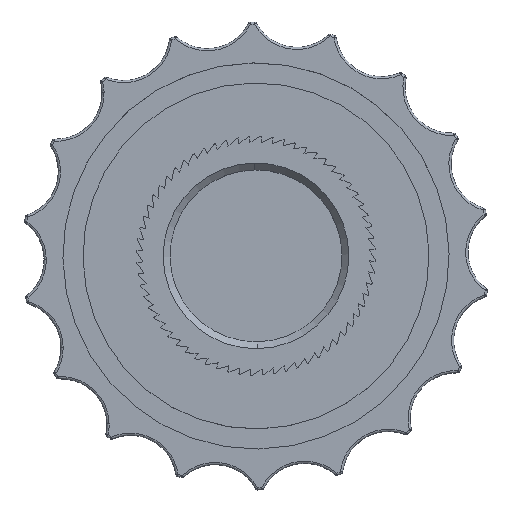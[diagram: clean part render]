
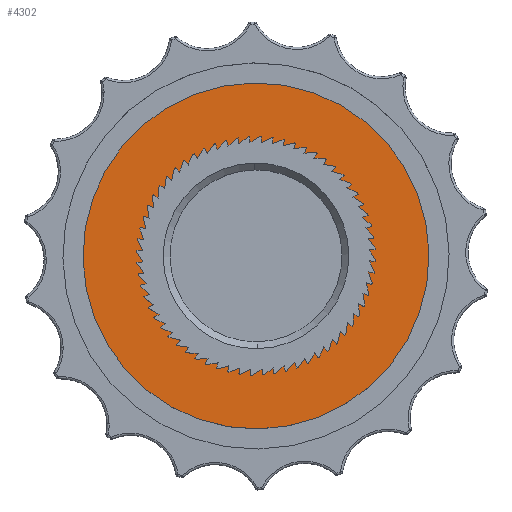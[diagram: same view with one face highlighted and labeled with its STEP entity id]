
A CAD part, top view. The second image highlights one B-rep face of the part: STEP entity #4302.
In plain terms, the highlighted planar face has unit normal (0, 0, 1) as drawn and (0, -1, 0) by its records, which use the part's own axes.
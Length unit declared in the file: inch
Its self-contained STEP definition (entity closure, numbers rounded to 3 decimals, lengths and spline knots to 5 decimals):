
#185 = PLANE ( 'NONE',  #8387 ) ;
#574 = VERTEX_POINT ( 'NONE', #2847 ) ;
#948 = CIRCLE ( 'NONE', #12480, 1.1785 ) ;
#1061 = CIRCLE ( 'NONE', #12857, 0.71875 ) ;
#1289 = DIRECTION ( 'NONE',  ( 0., 0., 1. ) ) ;
#1421 = ORIENTED_EDGE ( 'NONE', *, *, #4573, .F. ) ;
#2126 = CARTESIAN_POINT ( 'NONE',  ( 0., 0., 0. ) ) ;
#2699 = EDGE_CURVE ( 'NONE', #10566, #6928, #948, .T. ) ;
#2847 = CARTESIAN_POINT ( 'NONE',  ( 0., 0., 0.71875 ) ) ;
#3061 = DIRECTION ( 'NONE',  ( 0., -1., 0. ) ) ;
#3196 = DIRECTION ( 'NONE',  ( 0., 0., -1. ) ) ;
#3399 = CARTESIAN_POINT ( 'NONE',  ( 0., 0., 0. ) ) ;
#3863 = AXIS2_PLACEMENT_3D ( 'NONE', #2126, #9561, #3196 ) ;
#4226 = EDGE_CURVE ( 'NONE', #13101, #574, #1061, .T. ) ;
#4302 = ADVANCED_FACE ( 'NONE', ( #11360, #9254 ), #185, .F. ) ;
#4573 = EDGE_CURVE ( 'NONE', #574, #13101, #10524, .T. ) ;
#4695 = CARTESIAN_POINT ( 'NONE',  ( 0., 0., 0. ) ) ;
#5159 = CIRCLE ( 'NONE', #3863, 1.1785 ) ;
#5411 = CARTESIAN_POINT ( 'NONE',  ( 0., 0., 0. ) ) ;
#5610 = ORIENTED_EDGE ( 'NONE', *, *, #4226, .F. ) ;
#5751 = DIRECTION ( 'NONE',  ( 0., 0., -1. ) ) ;
#6073 = CARTESIAN_POINT ( 'NONE',  ( 0., 0., 1.1785 ) ) ;
#6479 = DIRECTION ( 'NONE',  ( 0., 0., -1. ) ) ;
#6928 = VERTEX_POINT ( 'NONE', #10922 ) ;
#7697 = DIRECTION ( 'NONE',  ( 0., 1., 0. ) ) ;
#8387 = AXIS2_PLACEMENT_3D ( 'NONE', #3399, #7697, #1289 ) ;
#8766 = ORIENTED_EDGE ( 'NONE', *, *, #9664, .T. ) ;
#9001 = CARTESIAN_POINT ( 'NONE',  ( 0., 0., -0.71875 ) ) ;
#9254 = FACE_OUTER_BOUND ( 'NONE', #13102, .T. ) ;
#9442 = CARTESIAN_POINT ( 'NONE',  ( 0., 0., 0. ) ) ;
#9542 = AXIS2_PLACEMENT_3D ( 'NONE', #9442, #3061, #10470 ) ;
#9561 = DIRECTION ( 'NONE',  ( 0., -1., 0. ) ) ;
#9664 = EDGE_CURVE ( 'NONE', #6928, #10566, #5159, .T. ) ;
#9760 = ORIENTED_EDGE ( 'NONE', *, *, #2699, .T. ) ;
#10470 = DIRECTION ( 'NONE',  ( 0., 0., -1. ) ) ;
#10524 = CIRCLE ( 'NONE', #9542, 0.71875 ) ;
#10566 = VERTEX_POINT ( 'NONE', #6073 ) ;
#10922 = CARTESIAN_POINT ( 'NONE',  ( 0., 0., -1.1785 ) ) ;
#11360 = FACE_BOUND ( 'NONE', #13431, .T. ) ;
#12083 = DIRECTION ( 'NONE',  ( 0., -1., 0. ) ) ;
#12480 = AXIS2_PLACEMENT_3D ( 'NONE', #4695, #12083, #5751 ) ;
#12786 = DIRECTION ( 'NONE',  ( 0., -1., 0. ) ) ;
#12857 = AXIS2_PLACEMENT_3D ( 'NONE', #5411, #12786, #6479 ) ;
#13101 = VERTEX_POINT ( 'NONE', #9001 ) ;
#13102 = EDGE_LOOP ( 'NONE', ( #8766, #9760 ) ) ;
#13431 = EDGE_LOOP ( 'NONE', ( #1421, #5610 ) ) ;
